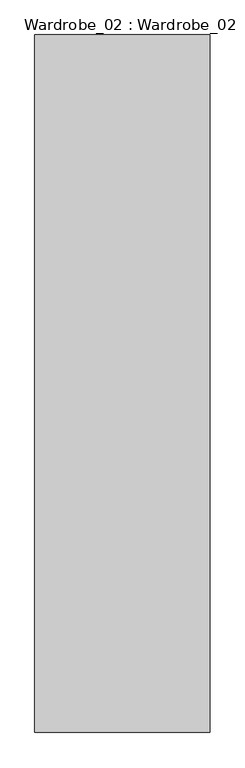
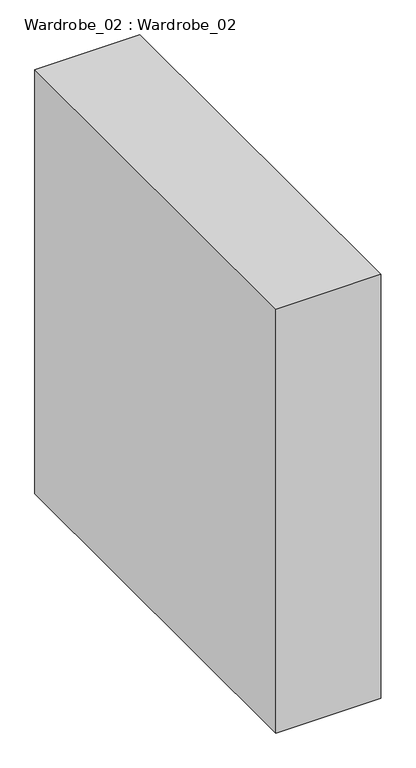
"""IFC4 building model written with IfcOpenShell, lengths in millimetres: furniture geometry, Wardrobe_02 : Wardrobe_02."""

from ifc_helpers import new_model, si_unit, origin, place, context, project, spatial, faceted_brep, source, transform, mapped, element, save


def wardrobe_02_wardrobe_02_01fa3c25(model_context):
    return source(origin(), model_context, "Body", "Brep", [
        faceted_brep([(-4069.1172575, 3643.8264883, 8900.0), (-4628.0019919, 3643.8264883, 8900.0), (-4628.0019919, 1418.1280649, 8900.0), (-4069.1172575, 1418.1280649, 8900.0), (-4069.1172575, 3643.8264883, 6510.0), (-4069.1172575, 1418.1280649, 6510.0), (-4628.0019919, 1418.1280649, 6510.0), (-4628.0019919, 3643.8264883, 6510.0), (-4069.1172575, 2579.8820552, 8600.5583378), (-4069.1172575, 3609.8820552, 8600.5583378), (-4069.1172575, 3609.8820552, 7482.5988517), (-4069.1172575, 2579.8820552, 7482.5988517), (-4069.1172575, 1424.8820552, 8600.5583378), (-4069.1172575, 2494.8820552, 8600.5583378), (-4069.1172575, 2494.8820552, 7482.5988517), (-4069.1172575, 1424.8820552, 7482.5988517), (-4069.1172575, 2579.8820552, 8841.2035824), (-4069.1172575, 3609.8820552, 8841.2035824), (-4069.1172575, 3609.8820552, 8667.7224346), (-4069.1172575, 2579.8820552, 8667.7224346), (-4069.1172575, 1424.8820552, 8841.2035824), (-4069.1172575, 2494.8820552, 8841.2035824), (-4069.1172575, 2494.8820552, 8667.7224346), (-4069.1172575, 1424.8820552, 8667.7224346), (-4588.1140319, 3609.8820552, 8600.5583378), (-4588.1140319, 3609.8820552, 7482.5988517), (-4588.1140319, 2579.8820552, 8600.5583378), (-4588.1140319, 2579.8820552, 7482.5988517), (-4588.1140319, 2494.8820552, 8600.5583378), (-4588.1140319, 2494.8820552, 7482.5988517), (-4588.1140319, 1424.8820552, 8600.5583378), (-4588.1140319, 1424.8820552, 7482.5988517), (-4588.1140319, 2579.8820552, 8841.2035824), (-4588.1140319, 3609.8820552, 8841.2035824), (-4588.1140319, 1424.8820552, 8841.2035824), (-4588.1140319, 2494.8820552, 8841.2035824), (-4588.1140319, 3609.8820552, 8667.7224346), (-4588.1140319, 2579.8820552, 8667.7224346), (-4588.1140319, 2494.8820552, 8667.7224346), (-4588.1140319, 1424.8820552, 8667.7224346)], [[[0, 1, 2, 3]], [[4, 5, 6, 7]], [[1, 0, 4, 7]], [[2, 1, 7, 6]], [[3, 2, 6, 5]], [[0, 3, 5, 4], [8, 9, 10, 11], [12, 13, 14, 15], [16, 17, 18, 19], [20, 21, 22, 23]], [[24, 25, 10, 9]], [[24, 26, 27, 25]], [[27, 26, 8, 11]], [[28, 29, 14, 13]], [[28, 30, 31, 29]], [[31, 30, 12, 15]], [[26, 24, 9, 8]], [[30, 28, 13, 12]], [[25, 27, 11, 10]], [[29, 31, 15, 14]], [[32, 33, 17, 16]], [[34, 35, 21, 20]], [[36, 37, 19, 18]], [[38, 39, 23, 22]], [[33, 36, 18, 17]], [[33, 32, 37, 36]], [[37, 32, 16, 19]], [[35, 38, 22, 21]], [[35, 34, 39, 38]], [[39, 34, 20, 23]]]),
    ])


if __name__ == "__main__":
    model = new_model("IFC4")
    model_context = context("Model", 3, world=origin())
    ifc_project = project(units=[si_unit("LENGTHUNIT", "METRE", prefix="MILLI")], contexts=[model_context])
    site = spatial("IfcSite", under=ifc_project)
    building = spatial("IfcBuilding", under=site)
    placement = place(None, origin())
    wardrobe_02_wardrobe_02_shape = wardrobe_02_wardrobe_02_01fa3c25(model_context)
    element("IfcFurniture", 1, ObjectType="Wardrobe_02 : Wardrobe_02", at=placement, inside=building, context=model_context, shape_type="MappedRepresentation", body=[
        mapped(wardrobe_02_wardrobe_02_shape, transform((0.0, 0.0, 0.0), x_axis=(1.0, 0.0, 0.0), y_axis=(0.0, 1.0, 0.0), z_axis=(0.0, 0.0, 1.0))),
    ])
    save(model, "model.ifc")
